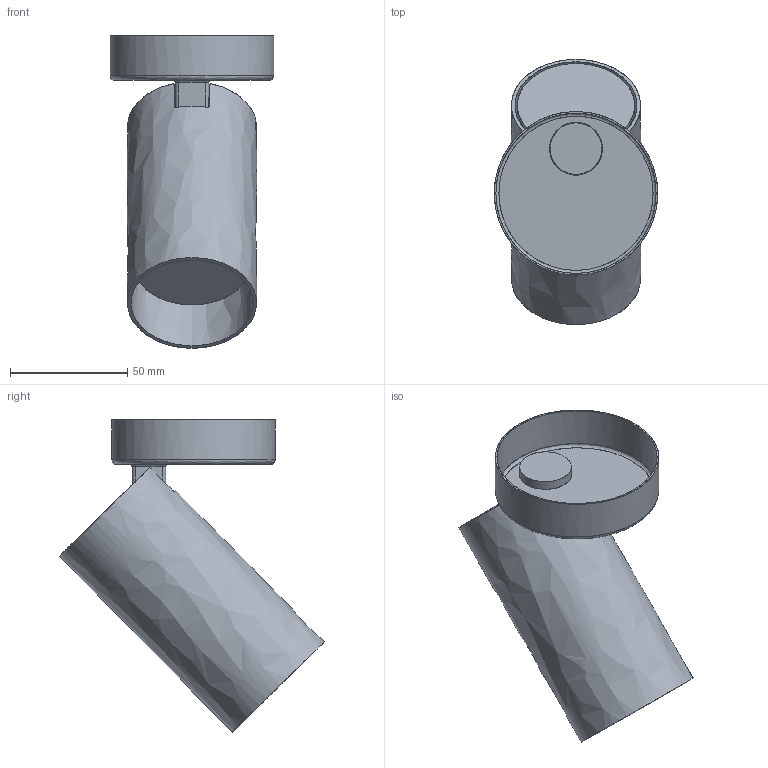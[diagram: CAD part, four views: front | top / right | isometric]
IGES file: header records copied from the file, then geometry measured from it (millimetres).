
Start section: SolidWorks IGES file using NURBS representation for surfaces
Global section: file name: Z:\Modele 3D_WWW\_KOLEKCJE_WWW\MONO\MONO-BELKA\7807\MONO-I-7807.IGS; native system: SolidWorks 2021; preprocessor: SolidWorks 2021; author: gabriela.tworek; date: 220117.104349; units: millimetre
Bounding box: 69.6 x 112.82 x 132.99 mm (x, y, z)
Surface area: 60388.9 mm2 (no closed solid volume)
Topology: 0 solids, 0 shells, 48 faces, 289 edges, 280 vertices
Faces by surface type: bspline 48
